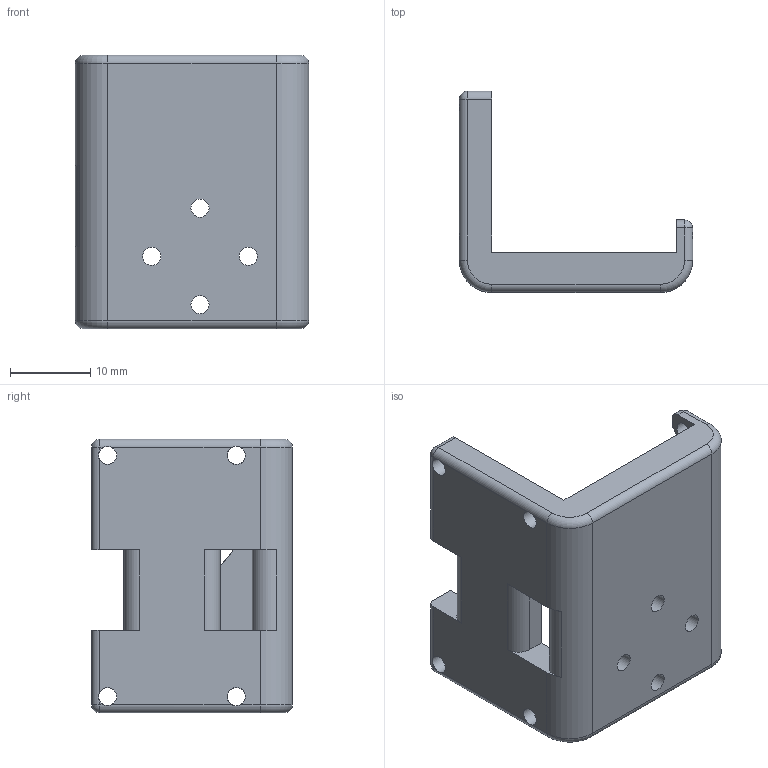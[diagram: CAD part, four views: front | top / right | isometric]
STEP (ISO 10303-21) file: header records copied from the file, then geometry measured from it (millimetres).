
FILE_DESCRIPTION(/* description */ (''),/* implementation_level */ '2;1');
FILE_NAME(/* name */ 'Gimbal yaw v5.step',/* time_stamp */ '2025-07-16T17:51:23+08:00',/* author */ (''),/* organization */ (''),/* preprocessor_version */ 'ST-DEVELOPER v20.1',/* originating_system */ 'Autodesk Translation Framework v14.10.0.0',/* authorisation */ '');
FILE_SCHEMA (('AUTOMOTIVE_DESIGN { 1 0 10303 214 3 1 1 }'));
Length unit declared in the file: millimetre
Products named in the file (1): Gimbal yaw
Bounding box: 29 x 25 x 34 mm (x, y, z)
Volume: 7003.1 mm3; surface area: 4360.8 mm2
Topology: 1 solids, 1 shells, 73 faces, 201 edges, 126 vertices
Faces by surface type: cylinder 36, plane 26, torus 5, sphere 4, bspline 2
Full cylindrical faces by diameter (mm): 2.25 x10, 4.25 x4
Entity records: 2551 total; most frequent: CARTESIAN_POINT 577, DIRECTION 420, ORIENTED_EDGE 402, EDGE_CURVE 201, AXIS2_PLACEMENT_3D 161, VERTEX_POINT 126, LINE 98, VECTOR 98
